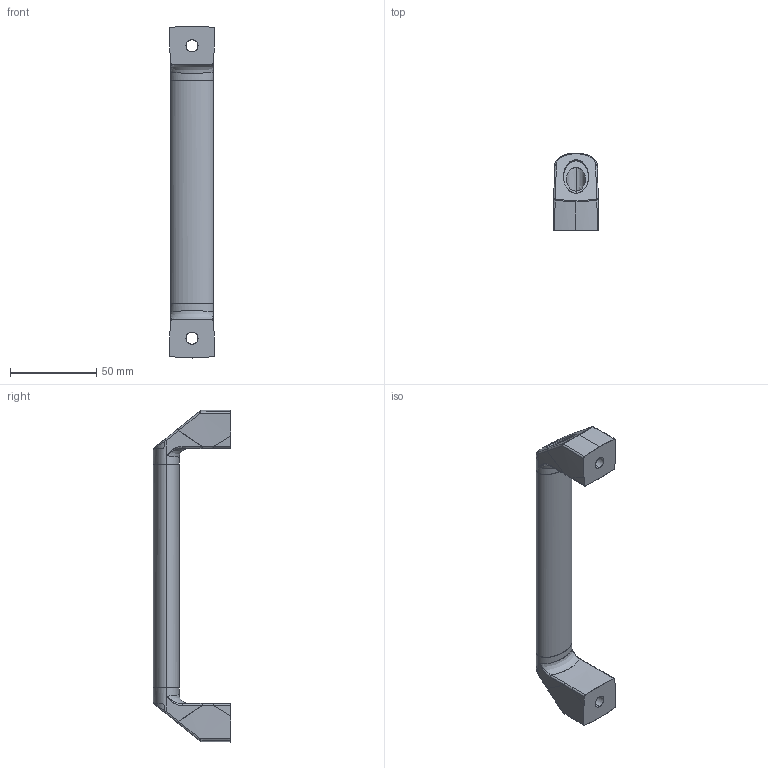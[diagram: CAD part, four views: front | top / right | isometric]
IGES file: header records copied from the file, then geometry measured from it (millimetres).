
Start section: SolidWorks IGES file using analytic representation for surfaces
Global section: file name: D:\由鑫國際內部資料\內部資料\3D圖檔\MS-737-1-D\MS-737-1-D\P=170.IGS,15HSolidWorks; native system: 2008; preprocessor: SolidWorks 2008; author: Administrator; date: 091027.155418; units: millimetre
Bounding box: 26.56 x 45 x 193 mm (x, y, z)
Surface area: 27600.3 mm2 (no closed solid volume)
Topology: 0 solids, 0 shells, 125 faces, 1972 edges, 1968 vertices
Faces by surface type: bspline 82, revolution 43
